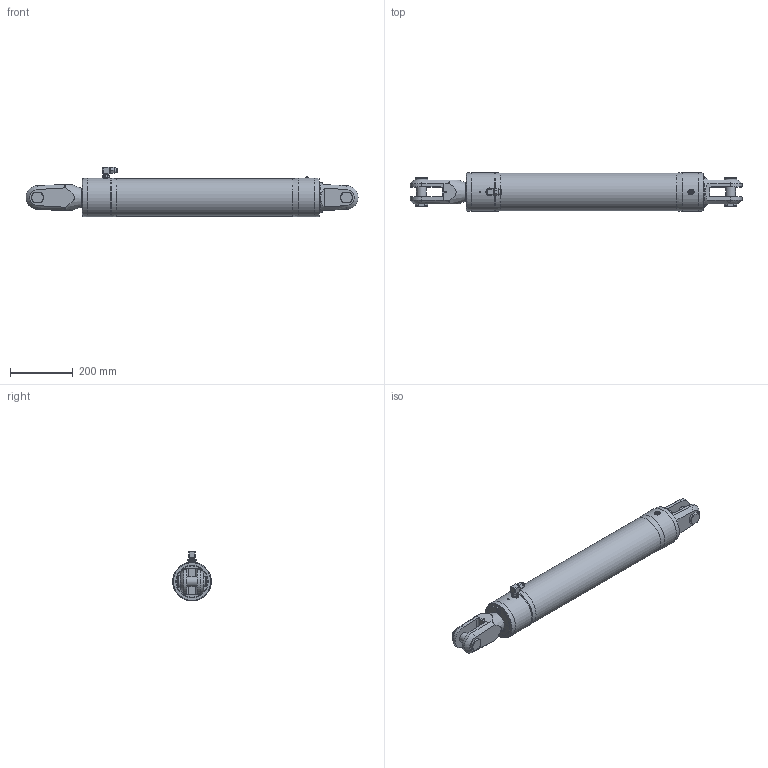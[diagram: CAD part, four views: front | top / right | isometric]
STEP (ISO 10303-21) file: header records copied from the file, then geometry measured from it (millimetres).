
FILE_DESCRIPTION(/* description */ (''),/* implementation_level */ '2;1');
FILE_NAME(/* name */ 'Q:\AA BRAND HYDRAULICS\HYDRAULICS FAMILY DIRECTORY\HYDRAULICS\CYLINDERS\RAMS\ALUMINIUM - STANDARD SINGLE ACTING (-0006 To -0260)\RSA-0076-S0550-NP-71\RSA-0076-S0550-NP-71 (Closed).stp',/* time_stamp */ '2017-11-30T13:53:18+00:00',/* author */ ('Lorena'),/* organization */ (''),/* preprocessor_version */ 'ST-DEVELOPER v16.13',/* originating_system */ 'Autodesk Inventor 2018',/* authorisation */ '');
FILE_SCHEMA (('AUTOMOTIVE_DESIGN { 1 0 10303 214 3 1 1 }'));
Products named in the file (1): RSA-0076-S0550-NP-71 (Closed)
Bounding box: 1060.3 x 123.6 x 159.15 mm (x, y, z)
Volume: 9897587.3 mm3; surface area: 439980.5 mm2
Topology: 1 solids, 4 shells, 1610 faces, 4272 edges, 2818 vertices
Faces by surface type: plane 892, bspline 573, cylinder 79, cone 57, torus 5, sphere 4
Full cylindrical faces by diameter (mm): 4 x1, 4.134 x1, 4.2 x2, 5 x1, 7 x1, 7.5 x1, 8.1 x1, 9 x1, 10 x4, 11 x2, 14 x1, 14.35 x1, 14.662 x1, 15 x1, 15.662 x1, 16.662 x2, 18 x2, 20 x2, 21.4 x2, 25 x1, 31.75 x2, 39.688 x2, 76 x1, 120.6 x1, 123.6 x4
Entity records: 56490 total; most frequent: CARTESIAN_POINT 19272, ORIENTED_EDGE 8302, DIRECTION 5275, EDGE_CURVE 4151, VERTEX_POINT 2781, LINE 2683, VECTOR 2683, EDGE_LOOP 1847
